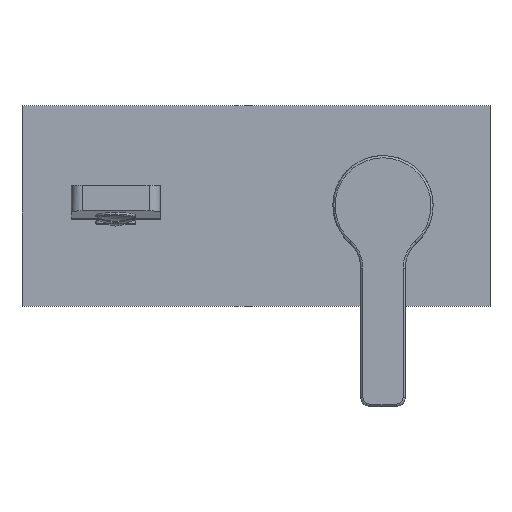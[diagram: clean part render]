
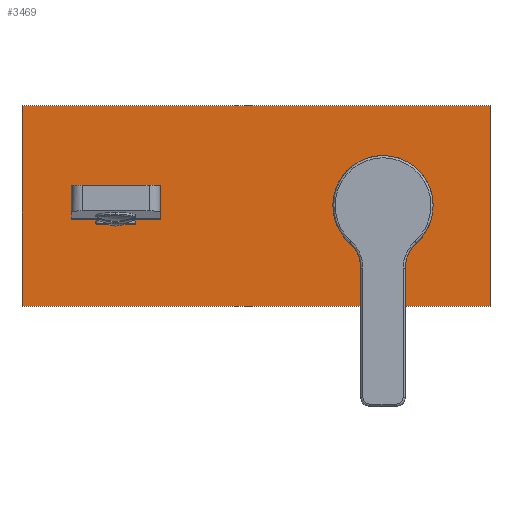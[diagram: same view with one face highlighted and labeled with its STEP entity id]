
A CAD part, top view. The second image highlights one B-rep face of the part: STEP entity #3469.
In plain terms, the highlighted planar face has unit normal (0, 0, 1).
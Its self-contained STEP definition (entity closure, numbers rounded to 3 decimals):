
#1022=CARTESIAN_POINT('',(57.,0.,0.));
#1023=DIRECTION('',(0.,0.,1.));
#1024=DIRECTION('',(-1.,0.,0.));
#1025=AXIS2_PLACEMENT_3D('',#1022,#1023,#1024);
#1032=DIRECTION('',(-1.,0.,0.));
#1033=VECTOR('',#1032,210.);
#1034=CARTESIAN_POINT('',(105.,-45.,0.));
#1035=LINE('',#1034,#1033);
#1036=DIRECTION('',(0.,1.,0.));
#1037=VECTOR('',#1036,90.);
#1038=CARTESIAN_POINT('',(-105.,-45.,0.));
#1039=LINE('',#1038,#1037);
#1040=DIRECTION('',(1.,0.,0.));
#1041=VECTOR('',#1040,210.);
#1042=CARTESIAN_POINT('',(-105.,45.,0.));
#1043=LINE('',#1042,#1041);
#1044=DIRECTION('',(0.,-1.,0.));
#1045=VECTOR('',#1044,90.);
#1046=CARTESIAN_POINT('',(105.,45.,0.));
#1047=LINE('',#1046,#1045);
#1048=DIRECTION('',(1.,0.,0.));
#1049=VECTOR('',#1048,8.181);
#1050=CARTESIAN_POINT('',(-82.8,-6.,0.));
#1051=LINE('',#1050,#1049);
#1052=CARTESIAN_POINT('',(-74.619,-21.,0.));
#1053=DIRECTION('',(0.,0.,-1.));
#1054=DIRECTION('',(0.,1.,0.));
#1055=AXIS2_PLACEMENT_3D('',#1052,#1053,#1054);
#1057=CARTESIAN_POINT('',(-63.,0.,0.));
#1058=DIRECTION('',(0.,0.,1.));
#1059=DIRECTION('',(-0.484,-0.875,0.));
#1060=AXIS2_PLACEMENT_3D('',#1057,#1058,#1059);
#1062=CARTESIAN_POINT('',(-51.381,-21.,0.));
#1063=DIRECTION('',(0.,0.,1.));
#1064=DIRECTION('',(0.,1.,0.));
#1065=AXIS2_PLACEMENT_3D('',#1062,#1063,#1064);
#1067=DIRECTION('',(1.,0.,0.));
#1068=VECTOR('',#1067,8.181);
#1069=CARTESIAN_POINT('',(-51.381,-6.,0.));
#1070=LINE('',#1069,#1068);
#1071=CARTESIAN_POINT('',(-43.2,-5.8,0.));
#1072=DIRECTION('',(0.,0.,-1.));
#1073=DIRECTION('',(1.,0.,0.));
#1074=AXIS2_PLACEMENT_3D('',#1071,#1072,#1073);
#1076=DIRECTION('',(0.,1.,0.));
#1077=VECTOR('',#1076,14.6);
#1078=CARTESIAN_POINT('',(-43.,-5.8,0.));
#1079=LINE('',#1078,#1077);
#1080=CARTESIAN_POINT('',(-43.2,8.8,0.));
#1081=DIRECTION('',(0.,0.,1.));
#1082=DIRECTION('',(1.,0.,0.));
#1083=AXIS2_PLACEMENT_3D('',#1080,#1081,#1082);
#1085=DIRECTION('',(-1.,0.,0.));
#1086=VECTOR('',#1085,39.6);
#1087=CARTESIAN_POINT('',(-43.2,9.,0.));
#1088=LINE('',#1087,#1086);
#1089=CARTESIAN_POINT('',(-82.8,8.8,0.));
#1090=DIRECTION('',(0.,0.,-1.));
#1091=DIRECTION('',(-1.,0.,0.));
#1092=AXIS2_PLACEMENT_3D('',#1089,#1090,#1091);
#1094=DIRECTION('',(0.,-1.,0.));
#1095=VECTOR('',#1094,14.6);
#1096=CARTESIAN_POINT('',(-83.,8.8,0.));
#1097=LINE('',#1096,#1095);
#1098=CARTESIAN_POINT('',(-82.8,-5.8,0.));
#1099=DIRECTION('',(0.,0.,-1.));
#1100=DIRECTION('',(0.,-1.,0.));
#1101=AXIS2_PLACEMENT_3D('',#1098,#1099,#1100);
#1135=CARTESIAN_POINT('',(57.,0.,0.));
#1136=DIRECTION('',(0.,0.,1.));
#1137=DIRECTION('',(1.,0.,0.));
#1138=AXIS2_PLACEMENT_3D('',#1135,#1136,#1137);
#1911=CARTESIAN_POINT('',(105.,-45.,0.));
#1912=CARTESIAN_POINT('',(-105.,-45.,0.));
#1913=VERTEX_POINT('',#1911);
#1914=VERTEX_POINT('',#1912);
#1915=CARTESIAN_POINT('',(-105.,45.,0.));
#1916=VERTEX_POINT('',#1915);
#1917=CARTESIAN_POINT('',(105.,45.,0.));
#1918=VERTEX_POINT('',#1917);
#1959=CARTESIAN_POINT('',(-82.8,-6.,0.));
#1960=CARTESIAN_POINT('',(-74.619,-6.,0.));
#1961=VERTEX_POINT('',#1959);
#1962=VERTEX_POINT('',#1960);
#1963=CARTESIAN_POINT('',(-51.381,-6.,0.));
#1964=CARTESIAN_POINT('',(-43.2,-6.,0.));
#1965=VERTEX_POINT('',#1963);
#1966=VERTEX_POINT('',#1964);
#1967=CARTESIAN_POINT('',(-43.,-5.8,0.));
#1968=CARTESIAN_POINT('',(-43.,8.8,0.));
#1969=VERTEX_POINT('',#1967);
#1970=VERTEX_POINT('',#1968);
#1971=CARTESIAN_POINT('',(-43.2,9.,0.));
#1972=CARTESIAN_POINT('',(-82.8,9.,0.));
#1973=VERTEX_POINT('',#1971);
#1974=VERTEX_POINT('',#1972);
#1975=CARTESIAN_POINT('',(-83.,8.8,0.));
#1976=CARTESIAN_POINT('',(-83.,-5.8,0.));
#1977=VERTEX_POINT('',#1975);
#1978=VERTEX_POINT('',#1976);
#1979=CARTESIAN_POINT('',(-67.357,-7.875,0.));
#1980=CARTESIAN_POINT('',(-58.643,-7.875,0.));
#1981=VERTEX_POINT('',#1979);
#1982=VERTEX_POINT('',#1980);
#2235=CARTESIAN_POINT('',(36.65,0.,0.));
#2236=CARTESIAN_POINT('',(77.35,0.,0.));
#2237=VERTEX_POINT('',#2235);
#2238=VERTEX_POINT('',#2236);
#3423=CARTESIAN_POINT('',(0.,0.,0.));
#3424=DIRECTION('',(0.,0.,-1.));
#3425=DIRECTION('',(0.,1.,0.));
#3426=AXIS2_PLACEMENT_3D('',#3423,#3424,#3425);
#3427=PLANE('',#3426);
#3429=ORIENTED_EDGE('',*,*,#3428,.T.);
#3431=ORIENTED_EDGE('',*,*,#3430,.T.);
#3433=ORIENTED_EDGE('',*,*,#3432,.T.);
#3435=ORIENTED_EDGE('',*,*,#3434,.T.);
#3436=EDGE_LOOP('',(#3429,#3431,#3433,#3435));
#3437=FACE_OUTER_BOUND('',#3436,.F.);
#3438=ORIENTED_EDGE('',*,*,#3413,.T.);
#3440=ORIENTED_EDGE('',*,*,#3439,.T.);
#3441=EDGE_LOOP('',(#3438,#3440));
#3442=FACE_BOUND('',#3441,.F.);
#3444=ORIENTED_EDGE('',*,*,#3443,.T.);
#3446=ORIENTED_EDGE('',*,*,#3445,.T.);
#3448=ORIENTED_EDGE('',*,*,#3447,.T.);
#3450=ORIENTED_EDGE('',*,*,#3449,.F.);
#3452=ORIENTED_EDGE('',*,*,#3451,.T.);
#3454=ORIENTED_EDGE('',*,*,#3453,.F.);
#3456=ORIENTED_EDGE('',*,*,#3455,.T.);
#3458=ORIENTED_EDGE('',*,*,#3457,.T.);
#3460=ORIENTED_EDGE('',*,*,#3459,.T.);
#3462=ORIENTED_EDGE('',*,*,#3461,.F.);
#3464=ORIENTED_EDGE('',*,*,#3463,.T.);
#3466=ORIENTED_EDGE('',*,*,#3465,.F.);
#3467=EDGE_LOOP('',(#3444,#3446,#3448,#3450,#3452,#3454,#3456,#3458,#3460,#3462,
#3464,#3466));
#3468=FACE_BOUND('',#3467,.F.);
#3469=ADVANCED_FACE('',(#3437,#3442,#3468),#3427,.F.);
#1026=CIRCLE('',#1025,20.35);
#1056=CIRCLE('',#1055,15.);
#1061=CIRCLE('',#1060,9.);
#1066=CIRCLE('',#1065,15.);
#1075=CIRCLE('',#1074,0.2);
#1084=CIRCLE('',#1083,0.2);
#1093=CIRCLE('',#1092,0.2);
#1102=CIRCLE('',#1101,0.2);
#1139=CIRCLE('',#1138,20.35);
#3413=EDGE_CURVE('',#2237,#2238,#1026,.T.);
#3428=EDGE_CURVE('',#1913,#1914,#1035,.T.);
#3430=EDGE_CURVE('',#1914,#1916,#1039,.T.);
#3432=EDGE_CURVE('',#1916,#1918,#1043,.T.);
#3434=EDGE_CURVE('',#1918,#1913,#1047,.T.);
#3439=EDGE_CURVE('',#2238,#2237,#1139,.T.);
#3443=EDGE_CURVE('',#1961,#1962,#1051,.T.);
#3445=EDGE_CURVE('',#1962,#1981,#1056,.T.);
#3447=EDGE_CURVE('',#1981,#1982,#1061,.T.);
#3449=EDGE_CURVE('',#1965,#1982,#1066,.T.);
#3451=EDGE_CURVE('',#1965,#1966,#1070,.T.);
#3453=EDGE_CURVE('',#1969,#1966,#1075,.T.);
#3455=EDGE_CURVE('',#1969,#1970,#1079,.T.);
#3457=EDGE_CURVE('',#1970,#1973,#1084,.T.);
#3459=EDGE_CURVE('',#1973,#1974,#1088,.T.);
#3461=EDGE_CURVE('',#1977,#1974,#1093,.T.);
#3463=EDGE_CURVE('',#1977,#1978,#1097,.T.);
#3465=EDGE_CURVE('',#1961,#1978,#1102,.T.);
